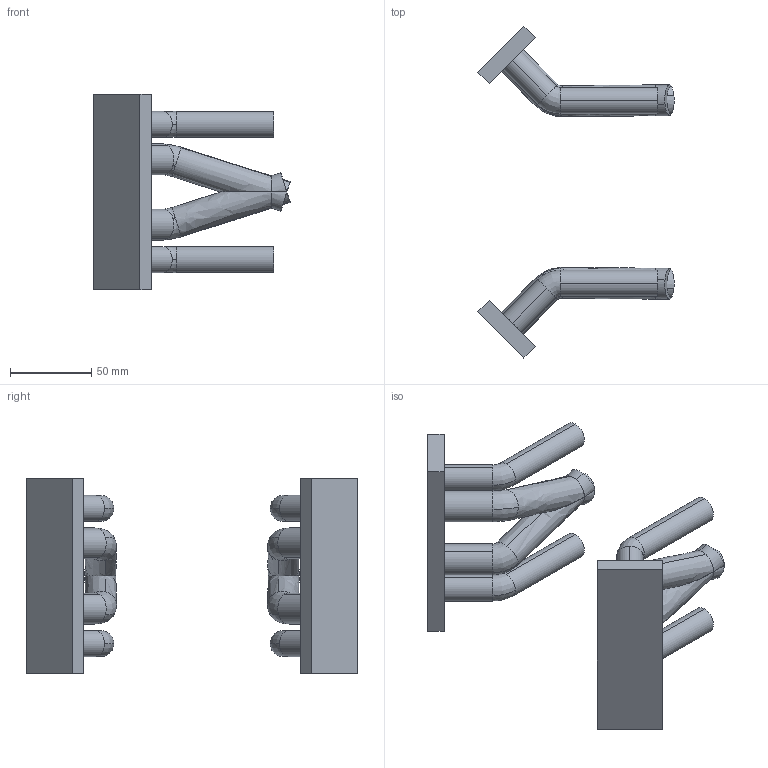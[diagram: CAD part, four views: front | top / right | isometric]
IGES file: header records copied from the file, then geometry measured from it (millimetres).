
Start section: IMSI TurboCAD v14.0
Global section: author: NULL; organization: NULL; date: 20231227.191353; units: millimetre
Bounding box: 120.53 x 203.65 x 120 mm (x, y, z)
Surface area: 67845.5 mm2 (no closed solid volume)
Topology: 0 solids, 0 shells, 88 faces, 432 edges, 432 vertices
Faces by surface type: revolution 64, extrusion 24
